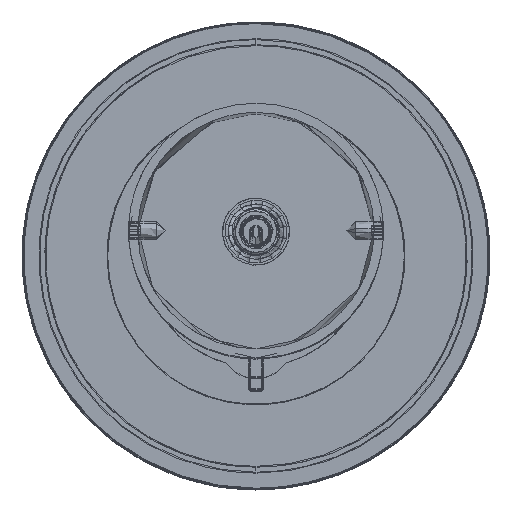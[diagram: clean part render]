
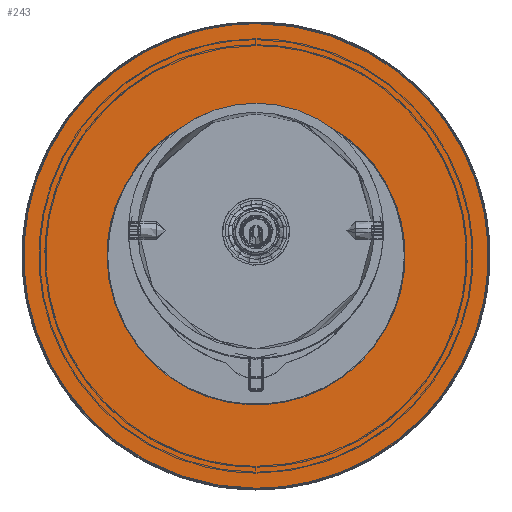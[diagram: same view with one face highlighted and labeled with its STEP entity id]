
A CAD part, top view. The second image highlights one B-rep face of the part: STEP entity #243.
In plain terms, the highlighted planar face has unit normal (0, 0, 1).
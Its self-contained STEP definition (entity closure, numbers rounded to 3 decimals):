
#96=FACE_BOUND('',#1037,.T.);
#243=ADVANCED_FACE('',(#633,#96),#5512,.T.);
#633=FACE_OUTER_BOUND('',#1036,.T.);
#1036=EDGE_LOOP('',(#1867,#1868));
#1037=EDGE_LOOP('',(#1869,#1870));
#1867=ORIENTED_EDGE('',*,*,#3409,.F.);
#1868=ORIENTED_EDGE('',*,*,#3392,.F.);
#1869=ORIENTED_EDGE('',*,*,#3388,.T.);
#1870=ORIENTED_EDGE('',*,*,#3411,.F.);
#3388=EDGE_CURVE('',#5095,#5094,#4689,.T.);
#3392=EDGE_CURVE('',#5098,#5099,#4691,.T.);
#3409=EDGE_CURVE('',#5099,#5098,#4701,.T.);
#3411=EDGE_CURVE('',#5095,#5094,#4703,.T.);
#4689=(
BOUNDED_CURVE()
B_SPLINE_CURVE(2,(#11127,#11128,#11129,#11130,#11131),.UNSPECIFIED.,.F.,
 .F.)
B_SPLINE_CURVE_WITH_KNOTS((3,2,3),(-101.002,-50.501,
0.),.UNSPECIFIED.)
CURVE()
GEOMETRIC_REPRESENTATION_ITEM()
RATIONAL_B_SPLINE_CURVE((1.,0.707,1.,0.707,1.))
REPRESENTATION_ITEM('')
);
#4691=(
BOUNDED_CURVE()
B_SPLINE_CURVE(2,(#11141,#11142,#11143,#11144,#11145),.UNSPECIFIED.,.F.,
 .F.)
B_SPLINE_CURVE_WITH_KNOTS((3,2,3),(0.,78.854,157.708),
 .UNSPECIFIED.)
CURVE()
GEOMETRIC_REPRESENTATION_ITEM()
RATIONAL_B_SPLINE_CURVE((1.,0.707,1.,0.707,1.))
REPRESENTATION_ITEM('')
);
#4701=(
BOUNDED_CURVE()
B_SPLINE_CURVE(2,(#11189,#11190,#11191,#11192,#11193),.UNSPECIFIED.,.F.,
 .F.)
B_SPLINE_CURVE_WITH_KNOTS((3,2,3),(0.,78.854,157.708),
 .UNSPECIFIED.)
CURVE()
GEOMETRIC_REPRESENTATION_ITEM()
RATIONAL_B_SPLINE_CURVE((1.,0.707,1.,0.707,1.))
REPRESENTATION_ITEM('')
);
#4703=(
BOUNDED_CURVE()
B_SPLINE_CURVE(2,(#11199,#11200,#11201,#11202,#11203),.UNSPECIFIED.,.F.,
 .F.)
B_SPLINE_CURVE_WITH_KNOTS((3,2,3),(0.,50.501,101.002),
 .UNSPECIFIED.)
CURVE()
GEOMETRIC_REPRESENTATION_ITEM()
RATIONAL_B_SPLINE_CURVE((1.,0.707,1.,0.707,1.))
REPRESENTATION_ITEM('')
);
#5094=VERTEX_POINT('',#11092);
#5095=VERTEX_POINT('',#11093);
#5098=VERTEX_POINT('',#11096);
#5099=VERTEX_POINT('',#11097);
#5512=PLANE('',#5890);
#5890=AXIS2_PLACEMENT_3D('',#11012,#5999,$);
#5999=DIRECTION('',(0.,0.,1.));
#11012=CARTESIAN_POINT('',(-60.24,62.783,13.));
#11092=CARTESIAN_POINT('',(32.15,2.543,13.));
#11093=CARTESIAN_POINT('',(-32.15,2.543,13.));
#11096=CARTESIAN_POINT('',(50.2,2.543,13.));
#11097=CARTESIAN_POINT('',(-50.2,2.543,13.));
#11127=CARTESIAN_POINT('',(-32.15,2.543,13.));
#11128=CARTESIAN_POINT('',(-32.15,34.693,13.));
#11129=CARTESIAN_POINT('',(0.,34.693,13.));
#11130=CARTESIAN_POINT('',(32.15,34.693,13.));
#11131=CARTESIAN_POINT('',(32.15,2.543,13.));
#11141=CARTESIAN_POINT('',(50.2,2.543,13.));
#11142=CARTESIAN_POINT('',(50.2,-47.657,13.));
#11143=CARTESIAN_POINT('',(0.,-47.657,13.));
#11144=CARTESIAN_POINT('',(-50.2,-47.657,13.));
#11145=CARTESIAN_POINT('',(-50.2,2.543,13.));
#11189=CARTESIAN_POINT('',(-50.2,2.543,13.));
#11190=CARTESIAN_POINT('',(-50.2,52.743,13.));
#11191=CARTESIAN_POINT('',(0.,52.743,13.));
#11192=CARTESIAN_POINT('',(50.2,52.743,13.));
#11193=CARTESIAN_POINT('',(50.2,2.543,13.));
#11199=CARTESIAN_POINT('',(-32.15,2.543,13.));
#11200=CARTESIAN_POINT('',(-32.15,-29.607,13.));
#11201=CARTESIAN_POINT('',(0.,-29.607,13.));
#11202=CARTESIAN_POINT('',(32.15,-29.607,13.));
#11203=CARTESIAN_POINT('',(32.15,2.543,13.));
